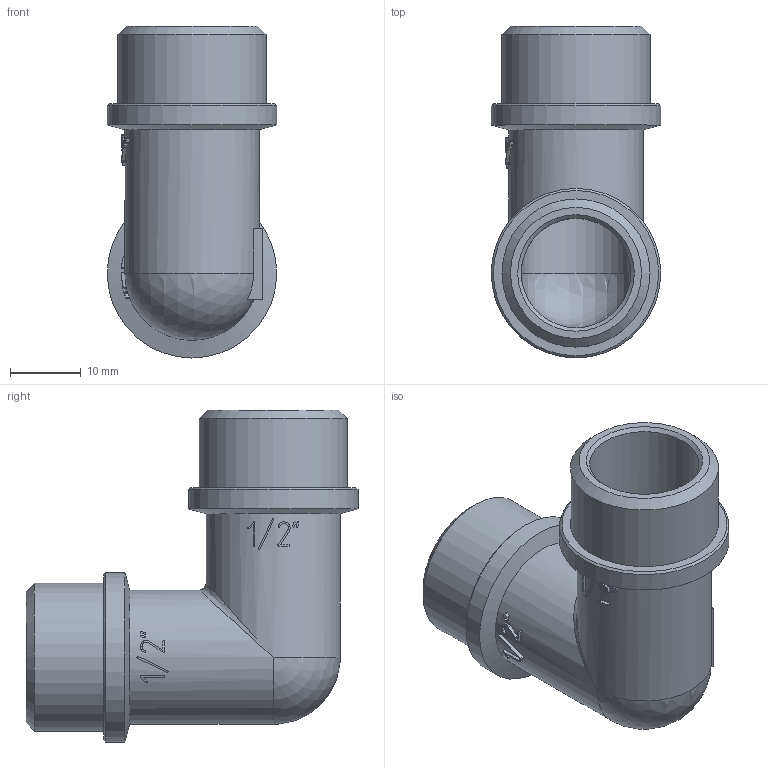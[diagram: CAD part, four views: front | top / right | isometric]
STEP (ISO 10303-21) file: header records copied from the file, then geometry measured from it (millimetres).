
FILE_DESCRIPTION(('STEP AP203'), '1');
FILE_NAME('ÂÐ.752212.001 - VTr.093.N.0004 - Ôèò. ðåçüá. óãîë', '2024-06-21T10:26:25', ('Boss'), (''), 'C3D Converter', 'C3D Toolkit', '');
FILE_SCHEMA(('CONFIG_CONTROL_DESIGN'));
Length unit declared in the file: millimetre
Products named in the file (1): ВР.752212.001
Bounding box: 24 x 47 x 47 mm (x, y, z)
Volume: 8956.2 mm3; surface area: 8438.8 mm2
Topology: 1 solids, 1 shells, 213 faces, 586 edges, 384 vertices
Faces by surface type: extrusion 116, plane 67, cylinder 19, cone 8, sphere 2, bspline 1
Full cylindrical faces by diameter (mm): 15.5 x2, 19 x2, 20.955 x2, 24 x2
Entity records: 8804 total; most frequent: CARTESIAN_POINT 4116, ORIENTED_EDGE 1130, DIRECTION 595, EDGE_CURVE 565, VERTEX_POINT 384, B_SPLINE_CURVE_WITH_KNOTS 354, VECTOR 327, EDGE_LOOP 245
